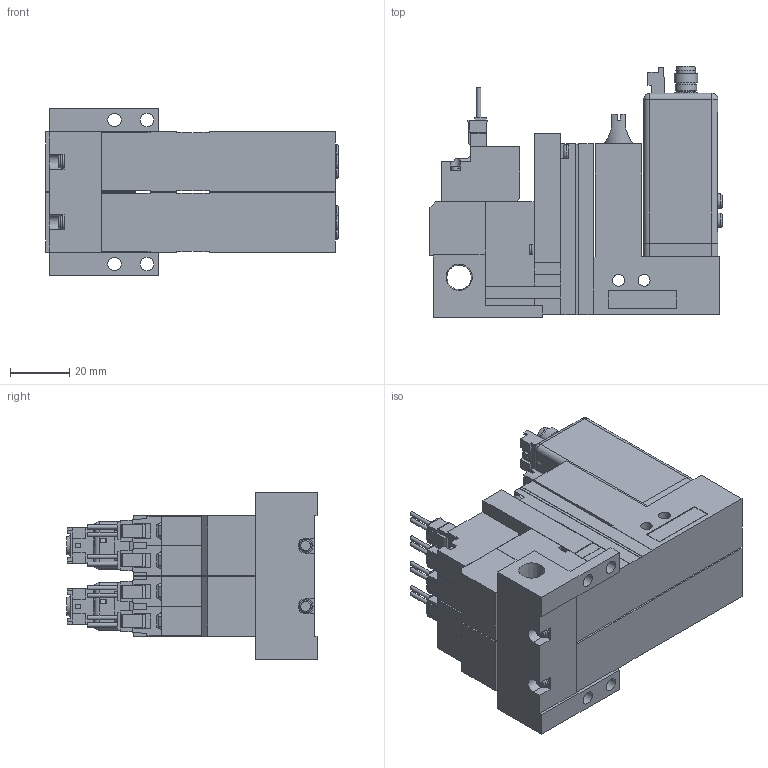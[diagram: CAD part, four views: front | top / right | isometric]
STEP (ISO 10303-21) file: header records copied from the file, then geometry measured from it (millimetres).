
FILE_DESCRIPTION(('STEP AP203'),'1');
FILE_NAME('22_22PLC5BLR202.stp','2025-06-12T02:07:08',(' '),(' '),'Spatial InterOp 3D',' ',' ');
FILE_SCHEMA(('CONFIG_CONTROL_DESIGN'));
Length unit declared in the file: millimetre
Products named in the file (6): BMC22M※※※※22_22PLC5BLR202; Solenoid valve B; Unit LC; Base MR20R; MVS-202
Assembly tree (7 placements, depth 2):
  BMC22M※※※※22_22PLC5BLR202
    Solenoid valve B  x2
    Unit LC  x2
    Base MR20R
    MVS-202
    MVS-202
Bounding box: 98.5 x 84.6 x 56.5 mm (x, y, z)
Volume: 221201.6 mm3; surface area: 64061.8 mm2
Topology: 7 solids, 15 shells, 1581 faces, 4125 edges, 2692 vertices
Faces by surface type: plane 1330, cylinder 193, cone 34, torus 16, sphere 8
Full cylindrical faces by diameter (mm): 1 x8, 1.4 x8, 1.5 x2, 2.5 x2, 3 x8, 3.5 x8, 3.6 x2, 4 x4, 4.134 x2, 4.5 x12, 4.8 x6, 5 x4, 5.2 x2, 5.8 x4, 6 x4, 6.5 x6, 6.6 x2, 7 x2, 7.2 x2, 7.9 x2, 8 x4, 8.279 x1
Entity records: 37040 total; most frequent: CARTESIAN_POINT 6715, ORIENTED_EDGE 6080, DIRECTION 5940, EDGE_CURVE 3040, LINE 2584, VECTOR 2584, VERTEX_POINT 2057, AXIS2_PLACEMENT_3D 1678
